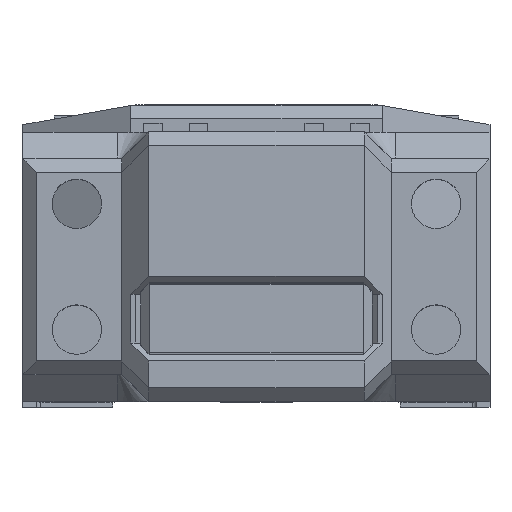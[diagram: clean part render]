
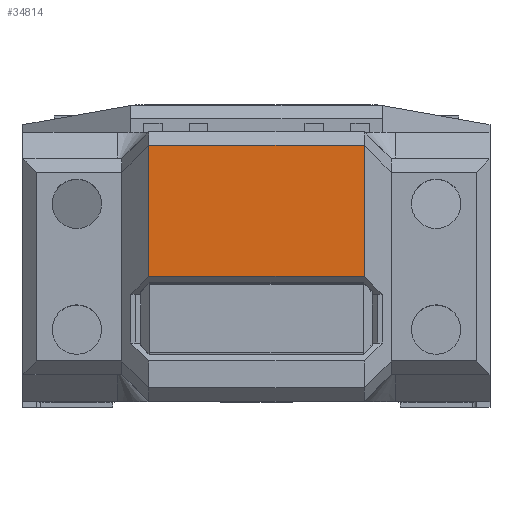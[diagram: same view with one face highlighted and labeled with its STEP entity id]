
A CAD part, top view. The second image highlights one B-rep face of the part: STEP entity #34814.
In plain terms, the highlighted planar face has unit normal (0, 0, 1).
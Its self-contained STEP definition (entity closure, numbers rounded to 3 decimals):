
#8383=DIRECTION('',(-1.,0.,0.));
#8384=VECTOR('',#8383,24.);
#8385=CARTESIAN_POINT('',(12.,13.5,7.));
#8386=LINE('',#8385,#8384);
#8395=DIRECTION('',(0.,-1.,0.));
#8396=VECTOR('',#8395,14.6);
#8397=CARTESIAN_POINT('',(12.,13.5,7.));
#8398=LINE('',#8397,#8396);
#8399=DIRECTION('',(-1.,0.,0.));
#8400=VECTOR('',#8399,24.);
#8401=CARTESIAN_POINT('',(12.,-1.1,7.));
#8402=LINE('',#8401,#8400);
#8403=DIRECTION('',(0.,-1.,0.));
#8404=VECTOR('',#8403,14.6);
#8405=CARTESIAN_POINT('',(-12.,13.5,7.));
#8406=LINE('',#8405,#8404);
#23103=CARTESIAN_POINT('',(12.,-1.1,7.));
#23104=CARTESIAN_POINT('',(-12.,-1.1,7.));
#23105=VERTEX_POINT('',#23103);
#23106=VERTEX_POINT('',#23104);
#23468=CARTESIAN_POINT('',(12.,13.5,7.));
#23470=VERTEX_POINT('',#23468);
#23475=CARTESIAN_POINT('',(-12.,13.5,7.));
#23476=VERTEX_POINT('',#23475);
#34803=CARTESIAN_POINT('',(0.,0.,7.));
#34804=DIRECTION('',(0.,0.,1.));
#34805=DIRECTION('',(-1.,0.,0.));
#34806=AXIS2_PLACEMENT_3D('',#34803,#34804,#34805);
#34807=PLANE('',#34806);
#34808=ORIENTED_EDGE('',*,*,#34794,.F.);
#34809=ORIENTED_EDGE('',*,*,#27600,.T.);
#34810=ORIENTED_EDGE('',*,*,#29469,.T.);
#34811=ORIENTED_EDGE('',*,*,#27663,.F.);
#34812=EDGE_LOOP('',(#34808,#34809,#34810,#34811));
#34813=FACE_OUTER_BOUND('',#34812,.F.);
#27600=EDGE_CURVE('',#23470,#23105,#8398,.T.);
#27663=EDGE_CURVE('',#23476,#23106,#8406,.T.);
#29469=EDGE_CURVE('',#23105,#23106,#8402,.T.);
#34794=EDGE_CURVE('',#23470,#23476,#8386,.T.);
#34814=ADVANCED_FACE('',(#34813),#34807,.T.);
